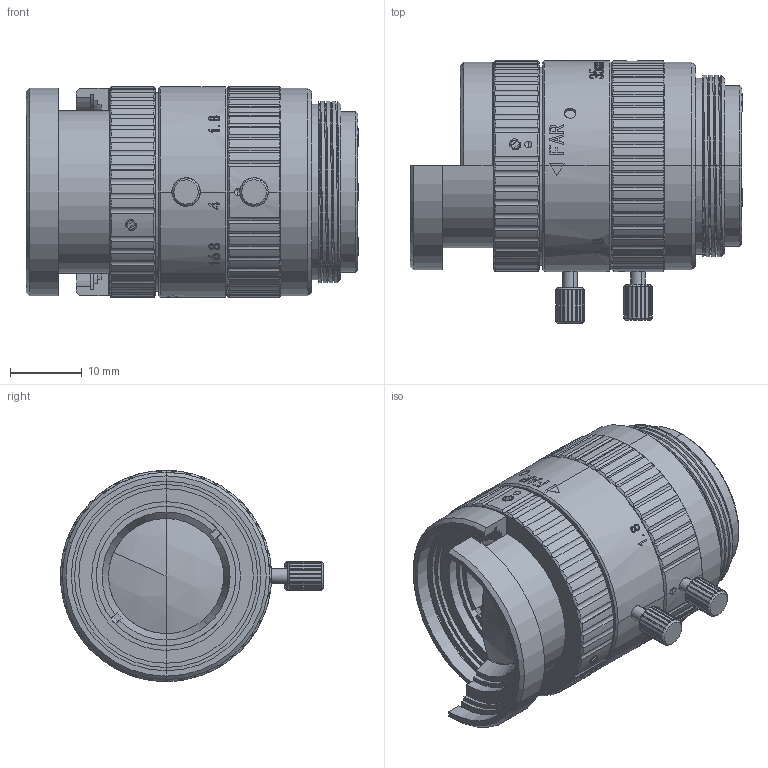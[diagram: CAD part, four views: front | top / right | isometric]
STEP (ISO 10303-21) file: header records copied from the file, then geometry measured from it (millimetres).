
FILE_DESCRIPTION (( 'STEP AP214' ), '1' );
FILE_NAME ('3518合成装配体内部实体版.STEP', '2020-02-20T03:07:01', ( '' ), ( '' ), 'SwSTEP 2.0', 'SolidWorks 2019', '' );
FILE_SCHEMA (( 'AUTOMOTIVE_DESIGN' ));
Length unit declared in the file: millimetre
Products named in the file (11): 坶踡隊; 嫖擊隊; 35mm蚾饜极123; 踡隅蹟隊; 隊赽; 35mm蚾饜极321; 零件5^3518合成装配体内部实体版; 3518合成装配体内部实体版; 零件4^3518合成装配体内部实体版
Assembly tree (9 placements, depth 3):
  坶踡隊
  嫖擊隊
  踡隅蹟隊
  隊赽
  3518合成装配体内部实体版
    35mm蚾饜极321
      隊赽
      踡隅蹟隊
    35mm蚾饜极123
      隊赽  x2
      踡隅蹟隊
    零件4^3518合成装配体内部实体版
    零件5^3518合成装配体内部实体版
Bounding box: 46.42 x 36.75 x 29.5 mm (x, y, z)
Volume: 22195.7 mm3; surface area: 9321.1 mm2
Topology: 7 solids, 9 shells, 912 faces, 2562 edges, 1712 vertices
Faces by surface type: cylinder 392, plane 368, cone 78, bspline 68, sphere 6
Entity records: 39100 total; most frequent: CARTESIAN_POINT 17664, ORIENTED_EDGE 4884, DIRECTION 3815, EDGE_CURVE 2442, VERTEX_POINT 1639, AXIS2_PLACEMENT_3D 1426, VECTOR 963, LINE 963
